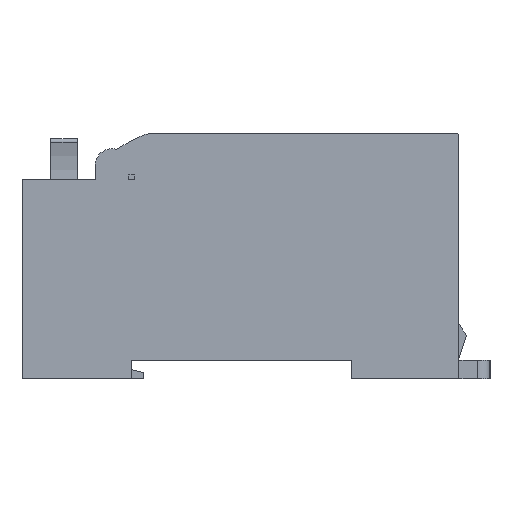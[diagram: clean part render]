
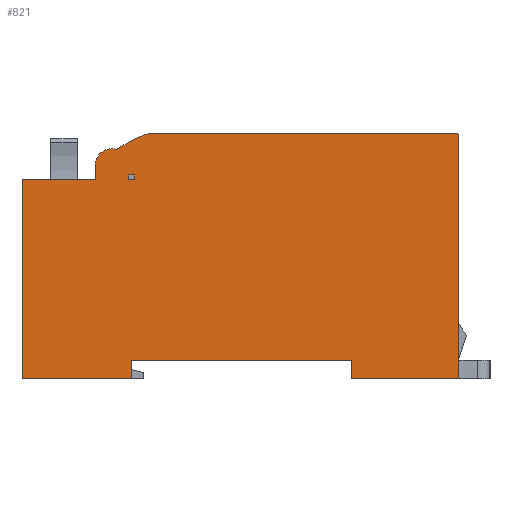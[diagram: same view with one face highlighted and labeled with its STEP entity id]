
A CAD part, left-side view. The second image highlights one B-rep face of the part: STEP entity #821.
In plain terms, the highlighted planar face has unit normal (-1, 0, 0).
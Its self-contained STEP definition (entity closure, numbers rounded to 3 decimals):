
#218=FACE_BOUND('',#3897,.T.);
#219=FACE_BOUND('',#3898,.T.);
#454=CIRCLE('',#21067,2.7);
#455=CIRCLE('',#21070,25.921);
#456=CIRCLE('',#21071,0.5);
#457=CIRCLE('',#21072,5.);
#821=ADVANCED_FACE('',(#218,#219),#1897,.T.);
#1897=PLANE('',#21073);
#3897=EDGE_LOOP('',(#5447,#5448,#5449,#5450));
#3898=EDGE_LOOP('',(#5451,#5452,#5453,#5454,#5455,#5456,#5457,#5458,#5459,
#5460,#5461,#5462,#5463,#5464));
#5447=ORIENTED_EDGE('',*,*,#13129,.F.);
#5448=ORIENTED_EDGE('',*,*,#13130,.T.);
#5449=ORIENTED_EDGE('',*,*,#13131,.T.);
#5450=ORIENTED_EDGE('',*,*,#12887,.F.);
#5451=ORIENTED_EDGE('',*,*,#13132,.F.);
#5452=ORIENTED_EDGE('',*,*,#13125,.F.);
#5453=ORIENTED_EDGE('',*,*,#13128,.F.);
#5454=ORIENTED_EDGE('',*,*,#12877,.F.);
#5455=ORIENTED_EDGE('',*,*,#13084,.T.);
#5456=ORIENTED_EDGE('',*,*,#13133,.T.);
#5457=ORIENTED_EDGE('',*,*,#13134,.T.);
#5458=ORIENTED_EDGE('',*,*,#13015,.T.);
#5459=ORIENTED_EDGE('',*,*,#13135,.T.);
#5460=ORIENTED_EDGE('',*,*,#13136,.T.);
#5461=ORIENTED_EDGE('',*,*,#12977,.F.);
#5462=ORIENTED_EDGE('',*,*,#13137,.F.);
#5463=ORIENTED_EDGE('',*,*,#13138,.F.);
#5464=ORIENTED_EDGE('',*,*,#13139,.F.);
#10964=VERTEX_POINT('',#27906);
#10965=VERTEX_POINT('',#27908);
#10974=VERTEX_POINT('',#27926);
#10975=VERTEX_POINT('',#27928);
#11053=VERTEX_POINT('',#28106);
#11054=VERTEX_POINT('',#28108);
#11088=VERTEX_POINT('',#28182);
#11089=VERTEX_POINT('',#28184);
#11138=VERTEX_POINT('',#28320);
#11158=VERTEX_POINT('',#28397);
#11159=VERTEX_POINT('',#28398);
#11160=VERTEX_POINT('',#28405);
#11161=VERTEX_POINT('',#28407);
#11162=VERTEX_POINT('',#28410);
#11163=VERTEX_POINT('',#28412);
#11164=VERTEX_POINT('',#28415);
#11165=VERTEX_POINT('',#28418);
#11166=VERTEX_POINT('',#28420);
#12877=EDGE_CURVE('',#10964,#10965,#15816,.T.);
#12887=EDGE_CURVE('',#10974,#10975,#15826,.T.);
#12977=EDGE_CURVE('',#11053,#11054,#15894,.T.);
#13015=EDGE_CURVE('',#11089,#11088,#15932,.T.);
#13084=EDGE_CURVE('',#10964,#11138,#16001,.T.);
#13125=EDGE_CURVE('',#11158,#11159,#454,.T.);
#13128=EDGE_CURVE('',#10965,#11158,#16038,.T.);
#13129=EDGE_CURVE('',#11160,#10974,#16039,.T.);
#13130=EDGE_CURVE('',#11160,#11161,#16040,.T.);
#13131=EDGE_CURVE('',#11161,#10975,#16041,.T.);
#13132=EDGE_CURVE('',#11159,#11162,#455,.T.);
#13133=EDGE_CURVE('',#11138,#11163,#16042,.T.);
#13134=EDGE_CURVE('',#11163,#11089,#16043,.T.);
#13135=EDGE_CURVE('',#11088,#11164,#16044,.T.);
#13136=EDGE_CURVE('',#11164,#11054,#16045,.T.);
#13137=EDGE_CURVE('',#11165,#11053,#456,.T.);
#13138=EDGE_CURVE('',#11166,#11165,#16046,.T.);
#13139=EDGE_CURVE('',#11162,#11166,#457,.T.);
#15816=LINE('',#27907,#18410);
#15826=LINE('',#27927,#18420);
#15894=LINE('',#28107,#18488);
#15932=LINE('',#28183,#18526);
#16001=LINE('',#28321,#18595);
#16038=LINE('',#28402,#18632);
#16039=LINE('',#28404,#18633);
#16040=LINE('',#28406,#18634);
#16041=LINE('',#28408,#18635);
#16042=LINE('',#28411,#18636);
#16043=LINE('',#28413,#18637);
#16044=LINE('',#28414,#18638);
#16045=LINE('',#28416,#18639);
#16046=LINE('',#28419,#18640);
#18410=VECTOR('',#22437,1.);
#18420=VECTOR('',#22447,1.);
#18488=VECTOR('',#22581,1.);
#18526=VECTOR('',#22625,1.);
#18595=VECTOR('',#22732,1.);
#18632=VECTOR('',#22815,1.);
#18633=VECTOR('',#22818,1.);
#18634=VECTOR('',#22819,1.);
#18635=VECTOR('',#22820,1.);
#18636=VECTOR('',#22823,1.);
#18637=VECTOR('',#22824,1.);
#18638=VECTOR('',#22825,1.);
#18639=VECTOR('',#22826,1.);
#18640=VECTOR('',#22829,1.);
#21067=AXIS2_PLACEMENT_3D('',#28396,#22809,#22810);
#21070=AXIS2_PLACEMENT_3D('',#28409,#22821,#22822);
#21071=AXIS2_PLACEMENT_3D('',#28417,#22827,#22828);
#21072=AXIS2_PLACEMENT_3D('',#28421,#22830,#22831);
#21073=AXIS2_PLACEMENT_3D('',#28422,#22832,#22833);
#22437=DIRECTION('',(0.,-1.,0.));
#22447=DIRECTION('',(0.,-1.,0.));
#22581=DIRECTION('',(0.,0.,-1.));
#22625=DIRECTION('',(0.,-1.,0.));
#22732=DIRECTION('',(0.,0.,-1.));
#22809=DIRECTION('',(1.,0.,0.));
#22810=DIRECTION('',(0.,0.,1.));
#22815=DIRECTION('',(0.,0.,1.));
#22818=DIRECTION('',(0.,0.,-1.));
#22819=DIRECTION('',(0.,-1.,0.));
#22820=DIRECTION('',(0.,0.,-1.));
#22821=DIRECTION('',(1.,0.,0.));
#22822=DIRECTION('',(0.,0.,1.));
#22823=DIRECTION('',(0.,-1.,0.));
#22824=DIRECTION('',(0.,0.,1.));
#22825=DIRECTION('',(0.,0.,-1.));
#22826=DIRECTION('',(0.,-1.,0.));
#22827=DIRECTION('',(1.,0.,0.));
#22828=DIRECTION('',(0.,0.,1.));
#22829=DIRECTION('',(0.,-1.,0.));
#22830=DIRECTION('',(1.,0.,0.));
#22831=DIRECTION('',(0.,0.,1.));
#22832=DIRECTION('',(-1.,0.,0.));
#22833=DIRECTION('',(0.,0.,1.));
#27906=CARTESIAN_POINT('',(1542.462,-7.576,-4.2));
#27907=CARTESIAN_POINT('',(1542.462,-7.576,-4.2));
#27908=CARTESIAN_POINT('',(1542.462,-19.345,-4.2));
#27926=CARTESIAN_POINT('',(1542.462,-24.745,-4.2));
#27927=CARTESIAN_POINT('',(1542.462,-7.576,-4.2));
#27928=CARTESIAN_POINT('',(1542.462,-25.645,-4.2));
#28106=CARTESIAN_POINT('',(1542.462,-77.776,2.8));
#28107=CARTESIAN_POINT('',(1542.462,-77.776,-36.2));
#28108=CARTESIAN_POINT('',(1542.462,-77.776,-36.2));
#28182=CARTESIAN_POINT('',(1542.462,-60.576,-33.2));
#28183=CARTESIAN_POINT('',(1542.462,-7.576,-33.2));
#28184=CARTESIAN_POINT('',(1542.462,-25.176,-33.2));
#28320=CARTESIAN_POINT('',(1542.462,-7.576,-36.2));
#28321=CARTESIAN_POINT('',(1542.462,-7.576,-36.2));
#28396=CARTESIAN_POINT('',(1542.462,-22.045,-1.9));
#28397=CARTESIAN_POINT('',(1542.462,-19.345,-1.9));
#28398=CARTESIAN_POINT('',(1542.462,-22.819,0.687));
#28402=CARTESIAN_POINT('',(1542.462,-19.345,-4.7));
#28404=CARTESIAN_POINT('',(1542.462,-24.745,-1.9));
#28405=CARTESIAN_POINT('',(1542.462,-24.745,-3.4));
#28406=CARTESIAN_POINT('',(1542.462,-7.576,-3.4));
#28407=CARTESIAN_POINT('',(1542.462,-25.645,-3.4));
#28408=CARTESIAN_POINT('',(1542.462,-25.645,-4.7));
#28409=CARTESIAN_POINT('',(1542.462,-37.163,-20.904));
#28410=CARTESIAN_POINT('',(1542.462,-26.878,2.89));
#28411=CARTESIAN_POINT('',(1542.462,-42.826,-36.2));
#28412=CARTESIAN_POINT('',(1542.462,-25.176,-36.2));
#28413=CARTESIAN_POINT('',(1542.462,-25.176,-36.2));
#28414=CARTESIAN_POINT('',(1542.462,-60.576,-36.2));
#28415=CARTESIAN_POINT('',(1542.462,-60.576,-36.2));
#28416=CARTESIAN_POINT('',(1542.462,-42.826,-36.2));
#28417=CARTESIAN_POINT('',(1542.462,-77.276,2.8));
#28418=CARTESIAN_POINT('',(1542.462,-77.276,3.3));
#28419=CARTESIAN_POINT('',(1542.462,-77.576,3.3));
#28420=CARTESIAN_POINT('',(1542.462,-28.862,3.3));
#28421=CARTESIAN_POINT('',(1542.462,-28.862,-1.7));
#28422=CARTESIAN_POINT('',(1542.462,-7.576,-36.2));
